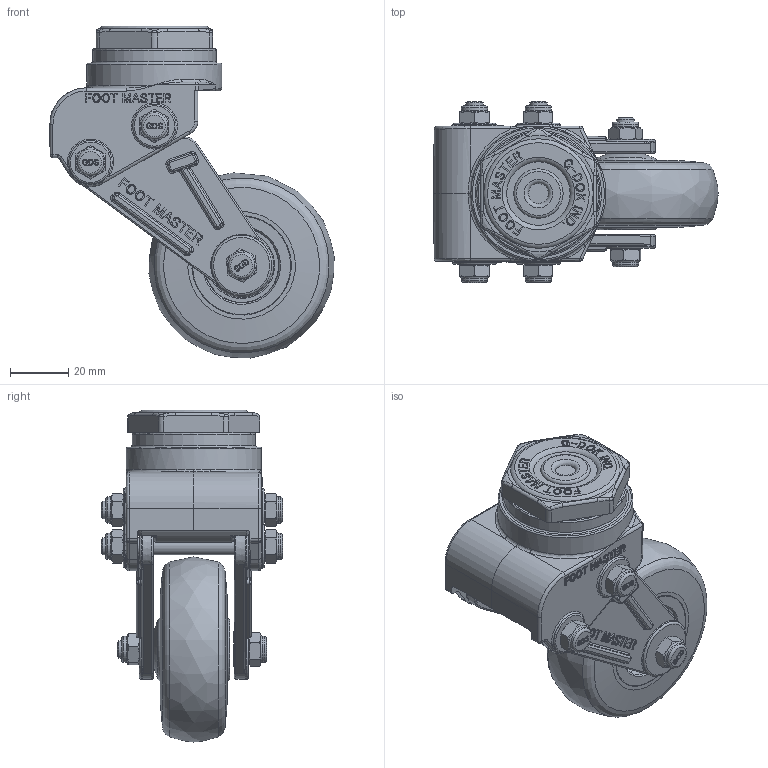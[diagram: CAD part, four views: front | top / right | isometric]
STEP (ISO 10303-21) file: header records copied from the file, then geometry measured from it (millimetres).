
FILE_DESCRIPTION(/* description */ (''),/* implementation_level */ '2;1');
FILE_NAME(/* name */ 'C:\Users\admin\Desktop\JYS\개발품\상세설계_20220328\홈페이지용 도면\GDS-65-ASS-EUS.stp',/* time_stamp */ '2023-03-08T15:10:16+09:00',/* author */ ('admin'),/* organization */ (''),/* preprocessor_version */ 'ST-DEVELOPER v18.1',/* originating_system */ 'Autodesk Inventor 2021',/* authorisation */ '');
FILE_SCHEMA (('AUTOMOTIVE_DESIGN { 1 0 10303 214 3 1 1 }'));
Products named in the file (1): GDS-65_ASS_REV01_Shrinkwrap_1
Bounding box: 97.87 x 62.3 x 114.27 mm (x, y, z)
Volume: 146603.5 mm3; surface area: 44500.7 mm2
Topology: 1 solids, 1 shells, 2009 faces, 5256 edges, 3367 vertices
Faces by surface type: plane 784, bspline 676, cylinder 266, cone 150, torus 117, sphere 16
Full cylindrical faces by diameter (mm): 6 x5, 8.8 x3, 9 x6, 17.216 x2, 18 x1, 20 x2, 22 x2, 22.784 x2, 30 x1, 42.5 x1, 46.5 x1
Entity records: 69496 total; most frequent: CARTESIAN_POINT 22276, ORIENTED_EDGE 10488, DIRECTION 7549, EDGE_CURVE 5244, VERTEX_POINT 3367, LINE 2555, VECTOR 2555, AXIS2_PLACEMENT_3D 2497
